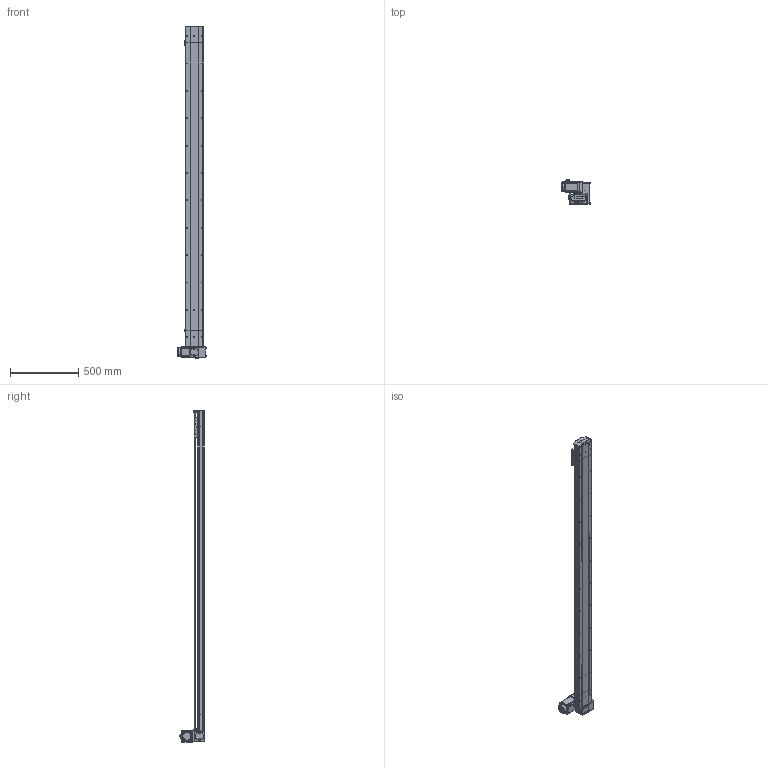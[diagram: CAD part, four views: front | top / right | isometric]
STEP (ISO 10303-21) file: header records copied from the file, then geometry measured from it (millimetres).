
FILE_DESCRIPTION (( 'STEP AP214' ), '1' );
FILE_NAME ('D14 TBH LT S2100.STEP', '2010-06-29T14:19:01', ( 'Conseil Régional Haute-Normandie' ), ( 'Conseil Régional Haute-Normandie' ), 'SwSTEP 2.0', 'SolidWorks 2010', '' );
FILE_SCHEMA (( 'AUTOMOTIVE_DESIGN' ));
Length unit declared in the file: millimetre
Products named in the file (39): couvercle D14 head_Default; codeur 90BLDC100-640; corps 90BLDC100A-640; Conecteur_Default; Cache_Default; Conecteur2_Default; avant 90BLDC100A-640; Plaque racord D14_Default; vis M5 L5_Default; renvoi LH_Default; Cache arbre_Default; Vis M5 L16-2_Default; Moteur motionking 90BLDC100A-640; chariot D14B_Default; Cvis M5 L70_Default; Chariot D14; vis M5 L12_Default; guide D14; D14 TBH LT S2100; corpl 2100_Default; couvercle D14 course L2100_Default; corpl tail D14_Default; Tail D14B_Default; D14 couroie L2100_Default; Rail + couroie D14 Course 2100 ; couroie 2_Default; Couroie_Default; poulie tail_Default; vis M5 L16_Default; D14 TB H LT_Default; poulie head_Default; tete d''axe haut D14; Arbre+rail tail D14; vis M5 L8 90°_Default; plaque de  bout tail D14_Default; Arbre+rail head D14; plaque de  bout head D14 LT_Default; corp head D14_Default; couvercle D14_Default
Assembly tree (68 placements, depth 4):
  D14 TBH LT S2100
    Tail D14B_Default
      poulie tail_Default
      Arbre+rail tail D14
      corpl tail D14_Default
      vis M5 L8 90°_Default  x2
      vis M5 L16_Default  x2
      tete d''axe haut D14
      plaque de  bout tail D14_Default
      couvercle D14_Default
      vis M5 L12_Default  x4
      Couroie_Default
    D14 TB H LT_Default
      vis M5 L12_Default  x12
      Cache_Default  x2
      Vis M5 L16-2_Default  x4
      Cache arbre_Default
      Cvis M5 L70_Default  x4
      couvercle D14 head_Default
      Moteur motionking 90BLDC100A-640
        Conecteur_Default
        corps 90BLDC100A-640
        codeur 90BLDC100-640
        Conecteur2_Default
        avant 90BLDC100A-640
      couroie 2_Default
      vis M5 L5_Default  x2
      Arbre+rail head D14
      corp head D14_Default
      renvoi LH_Default
      Plaque racord D14_Default
      poulie head_Default
      plaque de  bout head D14 LT_Default
    chariot D14B_Default
      Chariot D14
      guide D14  x2
      vis M5 L12_Default  x4
    D14 couroie L2100_Default
      Rail + couroie D14 Course 2100 
      corpl 2100_Default
      couvercle D14 course L2100_Default
Bounding box: 207.2 x 189.1 x 2425.75 mm (x, y, z)
Volume: 9429791.1 mm3; surface area: 3332263.7 mm2
Topology: 92 solids, 92 shells, 2693 faces, 6575 edges, 4242 vertices
Faces by surface type: plane 1605, cylinder 775, bspline 136, torus 89, cone 84, sphere 4
Entity records: 81044 total; most frequent: CARTESIAN_POINT 23849, ORIENTED_EDGE 10010, DIRECTION 9864, EDGE_CURVE 5005, VECTOR 3322, LINE 3322, VERTEX_POINT 3292, AXIS2_PLACEMENT_3D 3271
